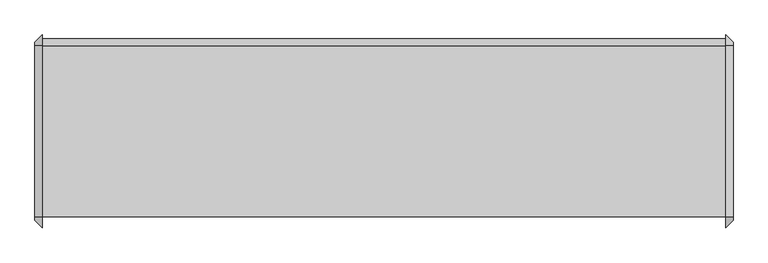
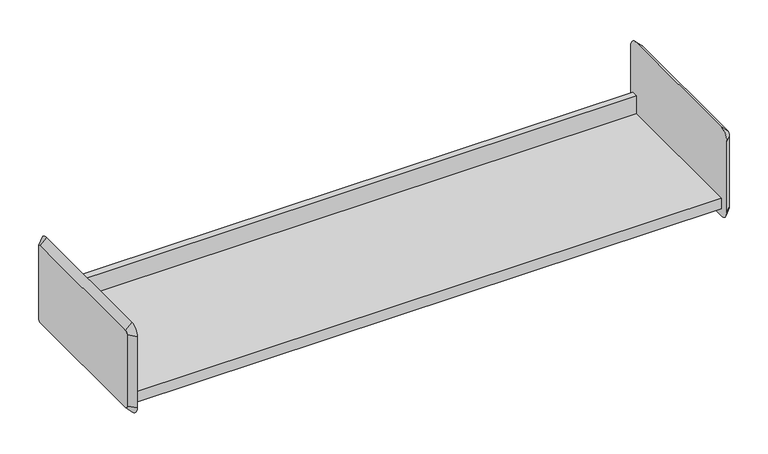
"""IFC4 building model written with IfcOpenShell, lengths in millimetres: furniture geometry."""

from ifc_helpers import new_model, si_unit, frame, origin, place, context, project, spatial, polyline, circle_curve, outline, extrude, source, transform, mapped, element, save
from ifc_brep_helpers import plane_surface, revolved_surface, advanced_brep


def furniture_4d61608e(model_context):
    return source(origin(), model_context, "Body", "SolidModel", [
        extrude(outline(polyline([(-136.525, 1478.34096), (161.925, 1478.34096), (161.925, 1516.44096), (174.625, 1516.44096), (174.625, 1513.26596), (165.1, 1513.26596), (165.1, 1475.16596), (-133.35, 1475.16596), (-133.35, 1456.11596), (-136.525, 1456.11596), (-136.525, 1478.34096)])), frame((-720.8420045, 0.0, 0.0), z_axis=(1.0, 0.0, 0.0), x_axis=(0.0, 1.0, 0.0)), (0.0, 0.0, 1.0), 1193.8),
        advanced_brep(
        [(485.6579955, 161.925, 1618.04096), (485.6579955, -136.525, 1618.04096), (485.6579955, -142.875, 1611.69096), (485.6579955, -142.875, 1459.29096), (485.6579955, -136.525, 1452.94096), (485.6579955, 161.925, 1452.94096), (485.6579955, 168.275, 1459.29096), (485.6579955, 168.275, 1611.69096), (472.9579955, 161.925, 1630.74096), (472.9579955, 180.975, 1611.69096), (472.9579955, 180.975, 1459.29096), (472.9579955, 161.925, 1440.24096), (472.9579955, -136.525, 1440.24096), (472.9579955, -155.575, 1459.29096), (472.9579955, -155.575, 1611.69096), (472.9579955, -136.525, 1630.74096)],
        [
            (0, 1),
            (1, 2, circle_curve(frame((485.6579955, -136.525, 1611.69096), z_axis=(1.0, 2.0730084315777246e-12, -2.1529444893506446e-12), x_axis=(2.15291077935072e-12, 0.0, 1.0)), 6.35)),
            (2, 3),
            (3, 4, circle_curve(frame((485.6579955, -136.525, 1459.29096), z_axis=(1.0, 2.0596857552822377e-12, 2.046363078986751e-12), x_axis=(2.059647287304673e-12, -1.0, 0.0)), 6.35)),
            (4, 5),
            (5, 6, circle_curve(frame((485.6579955, 161.925, 1459.29096), z_axis=(1.0, 2.0889956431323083e-12, -2.06767936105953e-12), x_axis=(-2.0676547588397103e-12, 0.0, -1.0)), 6.35)),
            (6, 7),
            (7, 0, circle_curve(frame((485.6579955, 161.925, 1611.69096), z_axis=(1.0, 2.0756729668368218e-12, 2.003730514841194e-12), x_axis=(-2.0756622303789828e-12, 1.0, 0.0)), 6.35)),
            (8, 9, circle_curve(frame((472.9579955, 161.925, 1611.69096), z_axis=(-1.0, -2.0756729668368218e-12, -2.003730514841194e-12), x_axis=(-2.0756622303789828e-12, 1.0, 0.0)), 19.05)),
            (9, 10),
            (10, 11, circle_curve(frame((472.9579955, 161.925, 1459.29096), z_axis=(-1.0, -2.0889956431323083e-12, 2.06767936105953e-12), x_axis=(-2.0676547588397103e-12, 0.0, -1.0)), 19.05)),
            (11, 12),
            (12, 13, circle_curve(frame((472.9579955, -136.525, 1459.29096), z_axis=(-1.0, -2.0596857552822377e-12, -2.046363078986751e-12), x_axis=(2.059647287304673e-12, -1.0, 0.0)), 19.05)),
            (13, 14),
            (14, 15, circle_curve(frame((472.9579955, -136.525, 1611.69096), z_axis=(-1.0, -2.0730084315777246e-12, 2.1529444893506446e-12), x_axis=(2.15291077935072e-12, 0.0, 1.0)), 19.05)),
            (15, 8),
            (15, 1),
            (0, 8),
            (14, 2),
            (13, 3),
            (12, 4),
            (11, 5),
            (10, 6),
            (9, 7),
        ],
        [
            plane_surface(frame((485.6579955, 12.7, 1535.49096), z_axis=(1.0, 0.0, 0.0), x_axis=(0.0, -1.0, 0.0))),
            plane_surface(frame((472.9579955, 12.7, 1535.49096), z_axis=(-1.0, 0.0, 0.0), x_axis=(0.0, -1.0, 0.0))),
            plane_surface(frame((472.9579955, 12.7, 1630.74096), z_axis=(0.7071067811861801, 0.0, 0.707106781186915), x_axis=(0.0, -1.0, 0.0))),
            revolved_surface(polyline([(485.6579955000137, -136.525, 1618.0409599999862), (472.9579955, -136.525, 1630.74096)]), (492.0079955, -136.525, 1611.69096), (-1.0, -2.0730084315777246e-12, 2.1529444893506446e-12)),
            plane_surface(frame((472.9579955, -155.575, 1535.49096), z_axis=(0.7071067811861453, -0.7071067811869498, 0.0), x_axis=(0.0, 0.0, -1.0))),
            revolved_surface(polyline([(485.6579955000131, -142.87499999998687, 1459.29096), (472.9579955, -155.575, 1459.29096)]), (492.0079955, -136.525, 1459.29096), (-1.0, -2.0596857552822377e-12, -2.046363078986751e-12)),
            plane_surface(frame((472.9579955, 12.7, 1440.24096), z_axis=(0.7071067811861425, 0.0, -0.7071067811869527), x_axis=(0.0, 1.0, 0.0))),
            revolved_surface(polyline([(485.65799550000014, 161.925, 1452.9409600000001), (472.9579954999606, 161.925, 1440.2409599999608)]), (492.0079955, 161.925, 1459.29096), (-1.0, -2.0889956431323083e-12, 2.06767936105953e-12)),
            plane_surface(frame((472.9579955, 180.975, 1535.49096), z_axis=(0.7071067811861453, 0.7071067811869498, 0.0), x_axis=(0.0, 0.0, 1.0))),
            revolved_surface(polyline([(485.6579955, 168.27499999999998, 1611.69096), (472.9579954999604, 180.97500000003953, 1611.69096)]), (492.0079955, 161.925, 1611.69096), (-1.0, -2.0756729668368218e-12, -2.003730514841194e-12)),
        ],
        [
            (0, [[1, 2, 3, 4, 5, 6, 7, 8]]),
            (1, [[9, 10, 11, 12, 13, 14, 15, 16]]),
            (2, [[-16, 17, -1, 18]]),
            (3, [[-15, 19, -2, -17]]),
            (4, [[-14, 20, -3, -19]]),
            (5, [[-13, 21, -4, -20]]),
            (6, [[-12, 22, -5, -21]]),
            (7, [[-11, 23, -6, -22]]),
            (8, [[-10, 24, -7, -23]]),
            (9, [[-9, -18, -8, -24]]),
        ],
    ),
        advanced_brep(
        [(-733.5420045, -136.525, 1618.04096), (-733.5420045, 161.925, 1618.04096), (-733.5420045, 168.275, 1611.69096), (-733.5420045, 168.275, 1459.29096), (-733.5420045, 161.925, 1452.94096), (-733.5420045, -136.525, 1452.94096), (-733.5420045, -142.875, 1459.29096), (-733.5420045, -142.875, 1611.69096), (-720.8420045, -136.525, 1630.74096), (-720.8420045, -155.575, 1611.69096), (-720.8420045, -155.575, 1459.29096), (-720.8420045, -136.525, 1440.24096), (-720.8420045, 161.925, 1440.24096), (-720.8420045, 180.975, 1459.29096), (-720.8420045, 180.975, 1611.69096), (-720.8420045, 161.925, 1630.74096)],
        [
            (0, 1),
            (1, 2, circle_curve(frame((-733.5420045, 161.925, 1611.69096), z_axis=(-1.0, 0.0, 0.0), x_axis=(0.0, 0.0, 1.0)), 6.35)),
            (2, 3),
            (3, 4, circle_curve(frame((-733.5420045, 161.925, 1459.29096), z_axis=(-1.0, 0.0, 0.0), x_axis=(0.0, 1.0, 0.0)), 6.35)),
            (4, 5),
            (5, 6, circle_curve(frame((-733.5420045, -136.525, 1459.29096), z_axis=(-1.0, 0.0, 0.0), x_axis=(0.0, 0.0, -1.0)), 6.35)),
            (6, 7),
            (7, 0, circle_curve(frame((-733.5420045, -136.525, 1611.69096), z_axis=(-1.0, 0.0, 0.0), x_axis=(0.0, -1.0, 0.0)), 6.35)),
            (8, 9, circle_curve(frame((-720.8420045, -136.525, 1611.69096), z_axis=(1.0, 0.0, 0.0), x_axis=(0.0, -1.0, 0.0)), 19.05)),
            (9, 10),
            (10, 11, circle_curve(frame((-720.8420045, -136.525, 1459.29096), z_axis=(1.0, 0.0, 0.0), x_axis=(0.0, 0.0, -1.0)), 19.05)),
            (11, 12),
            (12, 13, circle_curve(frame((-720.8420045, 161.925, 1459.29096), z_axis=(1.0, 0.0, 0.0), x_axis=(0.0, 1.0, 0.0)), 19.05)),
            (13, 14),
            (14, 15, circle_curve(frame((-720.8420045, 161.925, 1611.69096), z_axis=(1.0, 0.0, 0.0), x_axis=(0.0, 0.0, 1.0)), 19.05)),
            (15, 8),
            (15, 1),
            (0, 8),
            (14, 2),
            (13, 3),
            (12, 4),
            (11, 5),
            (10, 6),
            (9, 7),
        ],
        [
            plane_surface(frame((-733.5420045, 12.7, 1535.49096), z_axis=(-1.0, 0.0, 0.0), x_axis=(0.0, -1.0, 0.0))),
            plane_surface(frame((-720.8420045, 12.7, 1535.49096), z_axis=(1.0, 0.0, 0.0), x_axis=(0.0, -1.0, 0.0))),
            plane_surface(frame((-720.8420045, 12.7, 1630.74096), z_axis=(-0.7071067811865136, 0.0, 0.7071067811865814), x_axis=(0.0, 1.0, 0.0))),
            revolved_surface(polyline([(-733.5420045, 161.925, 1618.04096), (-720.8420045, 161.925, 1630.74096)]), (-739.8920045, 161.925, 1611.69096), (1.0, 0.0, 0.0)),
            plane_surface(frame((-720.8420045, 180.975, 1535.49096), z_axis=(-0.7071067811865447, 0.7071067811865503, 0.0), x_axis=(0.0, 0.0, -1.0))),
            revolved_surface(polyline([(-733.5420045, 168.27500000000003, 1459.29096), (-720.8420045, 180.975, 1459.29096)]), (-739.8920045, 161.925, 1459.29096), (1.0, 0.0, 0.0)),
            plane_surface(frame((-720.8420045, 12.7, 1440.24096), z_axis=(-0.7071067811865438, 0.0, -0.7071067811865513), x_axis=(0.0, -1.0, 0.0))),
            revolved_surface(polyline([(-733.5420045, -136.525, 1452.94096), (-720.8420045, -136.525, 1440.24096)]), (-739.8920045, -136.525, 1459.29096), (1.0, 0.0, 0.0)),
            plane_surface(frame((-720.8420045, -155.575, 1535.49096), z_axis=(-0.7071067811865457, -0.7071067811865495, 0.0), x_axis=(0.0, 0.0, 1.0))),
            revolved_surface(polyline([(-733.5420045, -142.87500000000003, 1611.69096), (-720.8420045, -155.575, 1611.69096)]), (-739.8920045, -136.525, 1611.69096), (1.0, 0.0, 0.0)),
        ],
        [
            (0, [[1, 2, 3, 4, 5, 6, 7, 8]]),
            (1, [[9, 10, 11, 12, 13, 14, 15, 16]]),
            (2, [[-16, 17, -1, 18]]),
            (3, [[-15, 19, -2, -17]]),
            (4, [[-14, 20, -3, -19]]),
            (5, [[-13, 21, -4, -20]]),
            (6, [[-12, 22, -5, -21]]),
            (7, [[-11, 23, -6, -22]]),
            (8, [[-10, 24, -7, -23]]),
            (9, [[-9, -18, -8, -24]]),
        ],
    ),
    ])


if __name__ == "__main__":
    model = new_model("IFC4")
    model_context = context("Model", 3, world=origin())
    ifc_project = project(units=[si_unit("LENGTHUNIT", "METRE", prefix="MILLI")], contexts=[model_context])
    site = spatial("IfcSite", under=ifc_project)
    building = spatial("IfcBuilding", under=site)
    placement = place(None, origin())
    furniture_shape = furniture_4d61608e(model_context)
    element("IfcFurniture", 1, ObjectType="HermanMiller_ActionOffice_A3220_B-StyleStorageDisplay : Shelf 13\"D x 48\"W", at=placement, inside=building, context=model_context, shape_type="MappedRepresentation", body=[
        mapped(furniture_shape, transform((0.0, 0.0, 0.0), x_axis=(1.0, 0.0, 0.0), y_axis=(0.0, 1.0, 0.0), z_axis=(0.0, 0.0, 1.0))),
    ])
    save(model, "model.ifc")
